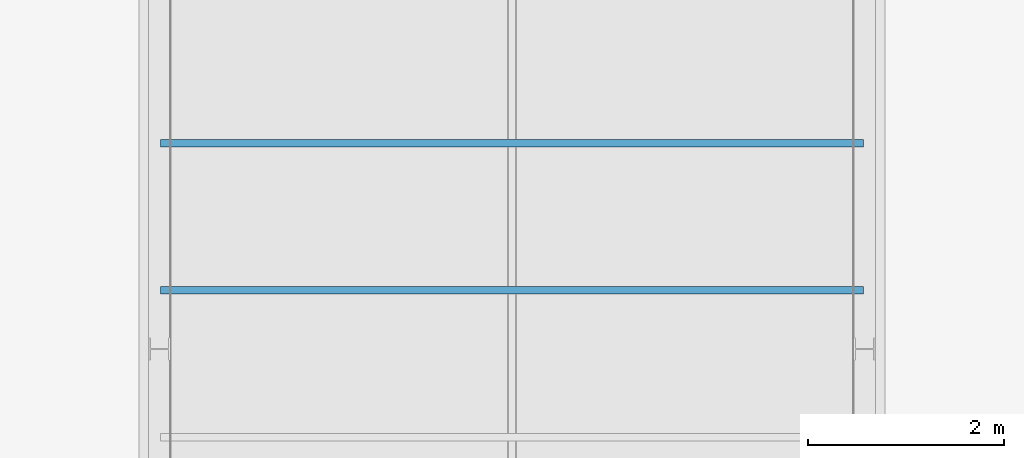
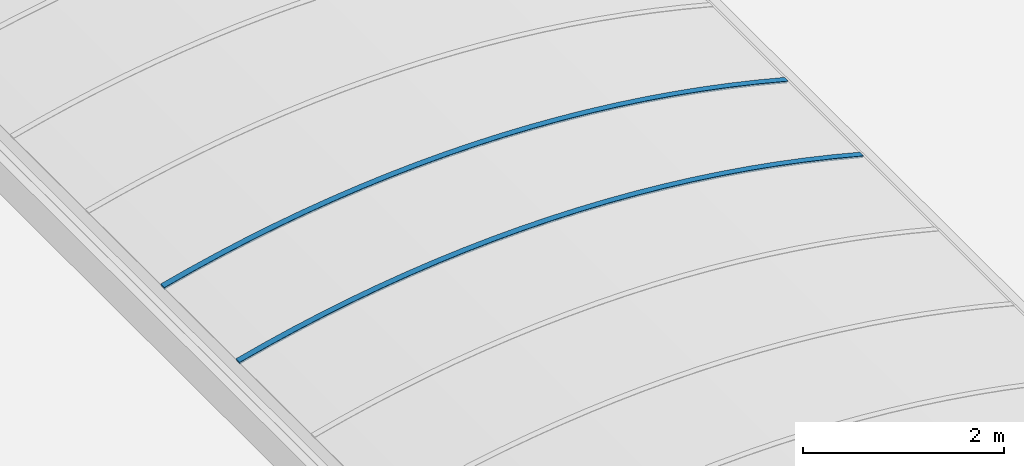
# One storey, part 40 of 81: 2 beams.
"""IFC2X3 building model written with IfcOpenShell, lengths in millimetres."""

from ifc_helpers import new_model, entity, si_unit, converted_unit, derived_unit, money_unit, direction, frame, origin_with_axes, place, context, subcontext, project, spatial, faceted_brep, material, material_list, type_object, element, save


model = new_model("IFC2X3")

# Units and contexts
model_context = context("Model", 3, precision=0.01, world=origin_with_axes(), true_north=direction((0.0, 1.0)))
body_context = subcontext(model_context, "Body", "Model", "MODEL_VIEW")
ifc_project = project(units=[si_unit("LENGTHUNIT", "METRE", prefix="MILLI"), si_unit("AREAUNIT", "SQUARE_METRE"), si_unit("VOLUMEUNIT", "CUBIC_METRE"), converted_unit("PLANEANGLEUNIT", "DEGREE", entity("IfcPlaneAngleMeasure", 0.0174532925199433), si_unit("PLANEANGLEUNIT", "RADIAN"), dimensions=[0, 0, 0, 0, 0, 0, 0]), money_unit("EUR"), converted_unit("TIMEUNIT", "Year", entity("IfcTimeMeasure", 31557600.0), si_unit("TIMEUNIT", "SECOND"), dimensions=[0, 0, 1, 0, 0, 0, 0]), si_unit("MASSUNIT", "GRAM", prefix="KILO"), si_unit("THERMODYNAMICTEMPERATUREUNIT", "DEGREE_CELSIUS"), si_unit("LUMINOUSINTENSITYUNIT", "LUMEN"), si_unit("ENERGYUNIT", "JOULE", prefix="MEGA"), derived_unit("THERMALCONDUCTANCEUNIT", [(si_unit("POWERUNIT", "WATT"), 1), (si_unit("LENGTHUNIT", "METRE"), -1), (si_unit("THERMODYNAMICTEMPERATUREUNIT", "KELVIN"), -1)]), derived_unit("SPECIFICHEATCAPACITYUNIT", [(si_unit("ENERGYUNIT", "JOULE"), 1), (si_unit("MASSUNIT", "GRAM", prefix="KILO"), -1), (si_unit("THERMODYNAMICTEMPERATUREUNIT", "KELVIN"), -1)]), derived_unit("MASSDENSITYUNIT", [(si_unit("MASSUNIT", "GRAM", prefix="KILO"), 1), (si_unit("VOLUMEUNIT", "CUBIC_METRE"), -1)])], contexts=[model_context])

# Site, building, storey
site_placement = place(None, origin_with_axes())
site = spatial("IfcSite", under=ifc_project, at=site_placement, Name="Site", CompositionType="ELEMENT")
building_placement = place(site_placement, origin_with_axes())
building = spatial("IfcBuilding", under=site, at=building_placement, Name="Naam gebouw", CompositionType="ELEMENT")
storey_placement = place(building_placement, frame((0.0, 0.0, 15320.0), z_axis=(0.0, 0.0, 1.0), x_axis=(1.0, 0.0, 0.0)))
storey = spatial("IfcBuildingStorey", under=building, at=storey_placement, Name="01 dak", CompositionType="ELEMENT", Elevation=15320.0)

# Beams
ifc_material = material(Name="Metaal - Aluminium AFW")
ifc_material_list = material_list([ifc_material, ifc_material])
beam_type = type_object("IfcBeamType", Name="lichtstraat polycarbonaat (constructie) 7420 x 670", PredefinedType="BEAM")
beam_1_placement = place(storey_placement, frame((46900.00000000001, 59362.50000000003, 559.9999999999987), z_axis=(0.0, 0.0, 1.0), x_axis=(1.0, 0.0, 0.0)))
element("IfcBeam", 1, at=beam_1_placement, inside=storey, type_object=beam_type, material=ifc_material_list, Name="Plafondafwerking 3", ObjectType="BEAM", context=body_context, shape_type="Brep", body=[
    faceted_brep([(-3532.999999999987, 0.0, 192.1385480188), (-3582.999999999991, 0.0, 179.000000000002), (-3582.999999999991, 75.00000000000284, 179.000000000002), (-3532.999999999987, 75.00000000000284, 192.1385480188), (-3264.746952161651, 0.0, 264.2761146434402), (-3584.237010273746, 0.0, 183.6724462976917), (-3527.999999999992, 0.0, 193.4415530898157), (-3213.322878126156, 0.0, 271.5053933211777), (-2896.922437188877, 0.0, 342.2614189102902), (-2578.968364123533, 0.0, 405.6716830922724), (-2259.631179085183, 0.0, 461.7021786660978), (-1939.082143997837, 0.0, 510.3228562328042), (-1617.493170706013, 0.0, 551.5076403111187), (-1295.036728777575, 0.0, 585.2344433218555), (-971.8857530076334, 0.0, 611.485177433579), (-648.2135506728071, 0.0, 630.2457642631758), (-324.1937085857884, 0.0, 641.5061424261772), (0.0, 0.0, 645.2602729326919), (324.1937085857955, 0.0, 641.5061424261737), (648.2135506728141, 0.0, 630.2457642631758), (971.8857530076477, 0.0, 611.4851774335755), (1295.036728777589, 0.0, 585.2344433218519), (1617.49317070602, 0.0, 551.5076403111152), (1939.082143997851, 0.0, 510.3228562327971), (2259.63117908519, 0.0, 461.7021786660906), (2578.968364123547, 0.0, 405.6716830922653), (2896.922437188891, 0.0, 342.2614189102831), (3213.322878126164, 0.0, 271.5053933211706), (3528.000000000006, 0.0, 193.4415530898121), (3528.000000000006, 0.0, 194.0000000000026), (3533.000000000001, 0.0, 194.0000000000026), (3533.000000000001, 0.0, 192.1385480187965), (3582.999999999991, 0.0, 179.000000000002), (3584.237010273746, 0.0, 183.6724462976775), (3264.746952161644, 0.0, 264.2761146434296), (2943.448443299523, 0.0, 337.3385317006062), (2620.519461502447, 0.0, 402.8192257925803), (2296.138887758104, 0.0, 460.6819250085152), (1970.486407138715, 0.0, 510.8945772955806), (1643.742409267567, 0.0, 553.4293682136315), (1316.087888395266, 0.0, 588.2627363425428), (987.7043431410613, 0.0, 615.3753863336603), (658.7736759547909, 0.0, 634.7522995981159), (329.4780923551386, 0.0, 646.3827426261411), (0.0, 0.0, 650.2602729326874), (-329.4780923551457, 0.0, 646.3827426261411), (-658.7736759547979, 0.0, 634.7522995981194), (-987.7043431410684, 0.0, 615.375386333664), (-1316.087888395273, 0.0, 588.2627363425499), (-1643.742409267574, 0.0, 553.4293682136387), (-1970.486407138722, 0.0, 510.8945772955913), (-2296.138887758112, 0.0, 460.6819250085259), (-2620.519461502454, 0.0, 402.8192257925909), (-2943.44844329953, 0.0, 337.3385317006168), (-3584.237010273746, 75.00000000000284, 183.6724462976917), (-3527.999999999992, 75.00000000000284, 193.4415530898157), (-3264.746952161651, 75.00000000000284, 264.2761146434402), (-2943.44844329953, 75.00000000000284, 337.3385317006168), (-2620.519461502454, 75.00000000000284, 402.8192257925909), (-2296.138887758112, 75.00000000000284, 460.6819250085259), (-1970.486407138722, 75.00000000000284, 510.8945772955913), (-1643.742409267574, 75.00000000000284, 553.4293682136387), (-1316.087888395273, 75.00000000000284, 588.2627363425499), (-987.7043431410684, 75.00000000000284, 615.375386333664), (-658.7736759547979, 75.00000000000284, 634.7522995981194), (-329.4780923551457, 75.00000000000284, 646.3827426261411), (0.0, 75.00000000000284, 650.2602729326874), (329.4780923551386, 75.00000000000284, 646.3827426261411), (658.7736759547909, 75.00000000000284, 634.7522995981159), (987.7043431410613, 75.00000000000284, 615.3753863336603), (1316.087888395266, 75.00000000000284, 588.2627363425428), (1643.742409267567, 75.00000000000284, 553.4293682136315), (1970.486407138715, 75.00000000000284, 510.8945772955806), (2296.138887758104, 75.00000000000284, 460.6819250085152), (2620.519461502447, 75.00000000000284, 402.8192257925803), (2943.448443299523, 75.00000000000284, 337.3385317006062), (3264.746952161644, 75.00000000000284, 264.2761146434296), (3584.237010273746, 75.00000000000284, 183.6724462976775), (3582.999999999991, 75.00000000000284, 179.000000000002), (3533.000000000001, 75.00000000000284, 192.1385480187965), (3533.000000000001, 75.00000000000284, 194.0000000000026), (3528.000000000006, 75.00000000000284, 194.0000000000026), (3528.000000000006, 75.00000000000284, 193.4415530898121), (3213.322878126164, 75.00000000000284, 271.5053933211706), (2896.922437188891, 75.00000000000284, 342.2614189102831), (2578.968364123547, 75.00000000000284, 405.6716830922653), (2259.63117908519, 75.00000000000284, 461.7021786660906), (1939.082143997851, 75.00000000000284, 510.3228562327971), (1617.49317070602, 75.00000000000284, 551.5076403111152), (1295.036728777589, 75.00000000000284, 585.2344433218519), (971.8857530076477, 75.00000000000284, 611.4851774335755), (648.2135506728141, 75.00000000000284, 630.2457642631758), (324.1937085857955, 75.00000000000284, 641.5061424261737), (0.0, 75.00000000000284, 645.2602729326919), (-324.1937085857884, 75.00000000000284, 641.5061424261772), (-648.2135506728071, 75.00000000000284, 630.2457642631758), (-971.8857530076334, 75.00000000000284, 611.485177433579), (-1295.036728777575, 75.00000000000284, 585.2344433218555), (-1617.493170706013, 75.00000000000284, 551.5076403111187), (-1939.082143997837, 75.00000000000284, 510.3228562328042), (-2259.631179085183, 75.00000000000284, 461.7021786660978), (-2578.968364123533, 75.00000000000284, 405.6716830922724), (-2896.922437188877, 75.00000000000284, 342.2614189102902), (-3213.322878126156, 75.00000000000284, 271.5053933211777)], [[[0, 1, 2, 3]], [[4, 5, 1, 0, 6, 7, 8, 9, 10, 11, 12, 13, 14, 15, 16, 17, 18, 19, 20, 21, 22, 23, 24, 25, 26, 27, 28, 29, 30, 31, 32, 33, 34, 35, 36, 37, 38, 39, 40, 41, 42, 43, 44, 45, 46, 47, 48, 49, 50, 51, 52, 53]], [[1, 5, 54, 2]], [[55, 3, 2, 54, 56, 57, 58, 59, 60, 61, 62, 63, 64, 65, 66, 67, 68, 69, 70, 71, 72, 73, 74, 75, 76, 77, 78, 79, 80, 81, 82, 83, 84, 85, 86, 87, 88, 89, 90, 91, 92, 93, 94, 95, 96, 97, 98, 99, 100, 101, 102, 103]], [[6, 0, 3, 55]], [[5, 4, 56, 54]], [[7, 6, 55, 103]], [[8, 7, 103, 102]], [[9, 8, 102, 101]], [[10, 9, 101, 100]], [[11, 10, 100, 99]], [[12, 11, 99, 98]], [[13, 12, 98, 97]], [[14, 13, 97, 96]], [[15, 14, 96, 95]], [[16, 15, 95, 94]], [[17, 16, 94, 93]], [[18, 17, 93, 92]], [[19, 18, 92, 91]], [[20, 19, 91, 90]], [[21, 20, 90, 89]], [[22, 21, 89, 88]], [[23, 22, 88, 87]], [[24, 23, 87, 86]], [[25, 24, 86, 85]], [[26, 25, 85, 84]], [[27, 26, 84, 83]], [[28, 27, 83, 82]], [[29, 28, 82, 81]], [[30, 29, 81, 80]], [[31, 30, 80, 79]], [[32, 31, 79, 78]], [[33, 32, 78, 77]], [[34, 33, 77, 76]], [[35, 34, 76, 75]], [[36, 35, 75, 74]], [[37, 36, 74, 73]], [[38, 37, 73, 72]], [[39, 38, 72, 71]], [[40, 39, 71, 70]], [[41, 40, 70, 69]], [[42, 41, 69, 68]], [[43, 42, 68, 67]], [[44, 43, 67, 66]], [[45, 44, 66, 65]], [[46, 45, 65, 64]], [[47, 46, 64, 63]], [[48, 47, 63, 62]], [[49, 48, 62, 61]], [[50, 49, 61, 60]], [[51, 50, 60, 59]], [[52, 51, 59, 58]], [[53, 52, 58, 57]], [[4, 53, 57, 56]]]),
    faceted_brep([(3269.271727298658, 75.00000000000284, 283.190243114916), (2947.542627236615, 75.00000000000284, 356.4574241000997), (2947.542627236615, 0.0, 356.4574241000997), (3269.271727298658, 0.0, 283.190243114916), (3589.18475202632, 75.00000000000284, 202.3611008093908), (3587.947861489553, 75.00000000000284, 197.6891067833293), (3528.000000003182, 75.00000000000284, 213.4415530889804), (3213.322878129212, 75.00000000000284, 291.505393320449), (2896.922437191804, 75.00000000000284, 362.2614189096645), (2578.968364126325, 75.00000000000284, 425.6716830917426), (2259.631179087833, 75.00000000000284, 481.7021786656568), (1939.082144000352, 75.00000000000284, 530.3228562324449), (1617.493170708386, 75.00000000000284, 571.5076403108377), (1295.036728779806, 75.00000000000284, 605.2344433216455), (971.8857530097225, 75.00000000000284, 631.4851774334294), (648.2135506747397, 75.00000000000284, 650.2457642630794), (324.1937085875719, 75.00000000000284, 661.5061424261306), (1.63424829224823e-09, 75.00000000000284, 665.2602729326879), (-324.1937085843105, 75.00000000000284, 661.5061424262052), (-648.2135506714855, 75.00000000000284, 650.2457642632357), (-971.8857530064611, 75.00000000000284, 631.4851774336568), (-1295.036728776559, 75.00000000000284, 605.2344433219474), (-1617.493170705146, 75.00000000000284, 571.5076403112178), (-1939.082143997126, 75.00000000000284, 530.3228562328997), (-2259.631179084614, 75.00000000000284, 481.7021786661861), (-2578.968364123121, 75.00000000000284, 425.6716830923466), (-2896.922437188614, 75.00000000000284, 362.2614189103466), (-3213.322878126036, 75.00000000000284, 291.5053933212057), (-3528.00000000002, 75.00000000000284, 213.4415530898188), (-3533.000000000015, 75.00000000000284, 212.1385480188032), (-3587.947861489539, 75.00000000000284, 197.6891067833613), (-3589.184752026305, 75.00000000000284, 202.3611008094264), (-3269.271727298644, 75.00000000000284, 283.1902431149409), (-2947.542627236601, 75.00000000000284, 356.4574241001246), (-2624.176171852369, 75.00000000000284, 422.1219439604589), (-2299.351990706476, 75.00000000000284, 480.1473261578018), (-1973.250523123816, 75.00000000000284, 530.5013376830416), (-1646.052917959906, 75.00000000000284, 573.156006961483), (-1317.940932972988, 75.00000000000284, 608.0876393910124), (-989.0968338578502, 75.00000000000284, 635.2768305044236), (-659.7032929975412, 75.00000000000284, 654.7084767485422), (-329.9432879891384, 75.00000000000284, 666.3717838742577), (0.0, 75.00000000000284, 670.2602729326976), (329.9432879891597, 75.00000000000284, 666.3717838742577), (659.7032929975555, 75.00000000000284, 654.7084767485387), (989.0968338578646, 75.00000000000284, 635.2768305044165), (1317.940932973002, 75.00000000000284, 608.0876393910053), (1646.052917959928, 75.00000000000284, 573.1560069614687), (1973.250523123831, 75.00000000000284, 530.5013376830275), (2299.351990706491, 75.00000000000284, 480.147326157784), (2624.176171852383, 75.00000000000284, 422.1219439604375), (2624.176171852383, 0.0, 422.1219439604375), (2299.351990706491, 0.0, 480.147326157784), (1973.250523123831, 0.0, 530.5013376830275), (1646.052917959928, 0.0, 573.1560069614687), (1317.940932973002, 0.0, 608.0876393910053), (989.0968338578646, 0.0, 635.2768305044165), (659.7032929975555, 0.0, 654.7084767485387), (329.9432879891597, 0.0, 666.3717838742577), (0.0, 0.0, 670.2602729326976), (-329.9432879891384, 0.0, 666.3717838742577), (-659.7032929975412, 0.0, 654.7084767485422), (-989.0968338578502, 0.0, 635.2768305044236), (-1317.940932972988, 0.0, 608.0876393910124), (-1646.052917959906, 0.0, 573.156006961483), (-1973.250523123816, 0.0, 530.5013376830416), (-2299.351990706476, 0.0, 480.1473261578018), (-2624.176171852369, 0.0, 422.1219439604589), (-2947.542627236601, 0.0, 356.4574241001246), (-3269.271727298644, 0.0, 283.1902431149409), (-3589.184752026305, 0.0, 202.3611008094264), (-3587.947861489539, 0.0, 197.6891067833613), (-3533.000000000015, 0.0, 212.1385480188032), (-3528.00000000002, 0.0, 213.4415530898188), (-3213.322878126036, 0.0, 291.5053933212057), (-2896.922437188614, 0.0, 362.2614189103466), (-2578.968364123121, 0.0, 425.6716830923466), (-2259.631179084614, 0.0, 481.7021786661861), (-1939.082143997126, 0.0, 530.3228562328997), (-1617.493170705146, 0.0, 571.5076403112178), (-1295.036728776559, 0.0, 605.2344433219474), (-971.8857530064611, 0.0, 631.4851774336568), (-648.2135506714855, 0.0, 650.2457642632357), (-324.1937085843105, 0.0, 661.5061424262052), (1.63424829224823e-09, 0.0, 665.2602729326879), (324.1937085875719, 0.0, 661.5061424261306), (648.2135506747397, 0.0, 650.2457642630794), (971.8857530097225, 0.0, 631.4851774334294), (1295.036728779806, 0.0, 605.2344433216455), (1617.493170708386, 0.0, 571.5076403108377), (1939.082144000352, 0.0, 530.3228562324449), (2259.631179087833, 0.0, 481.7021786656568), (2578.968364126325, 0.0, 425.6716830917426), (2896.922437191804, 0.0, 362.2614189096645), (3213.322878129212, 0.0, 291.505393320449), (3528.000000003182, 0.0, 213.4415530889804), (3587.947861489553, 0.0, 197.6891067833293), (3589.18475202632, 0.0, 202.3611008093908)], [[[0, 1, 2, 3]], [[0, 4, 5, 6, 7, 8, 9, 10, 11, 12, 13, 14, 15, 16, 17, 18, 19, 20, 21, 22, 23, 24, 25, 26, 27, 28, 29, 30, 31, 32, 33, 34, 35, 36, 37, 38, 39, 40, 41, 42, 43, 44, 45, 46, 47, 48, 49, 50, 1]], [[1, 50, 51, 2]], [[3, 2, 51, 52, 53, 54, 55, 56, 57, 58, 59, 60, 61, 62, 63, 64, 65, 66, 67, 68, 69, 70, 71, 72, 73, 74, 75, 76, 77, 78, 79, 80, 81, 82, 83, 84, 85, 86, 87, 88, 89, 90, 91, 92, 93, 94, 95, 96, 97]], [[4, 0, 3, 97]], [[5, 4, 97, 96]], [[6, 5, 96, 95]], [[7, 6, 95, 94]], [[8, 7, 94, 93]], [[9, 8, 93, 92]], [[10, 9, 92, 91]], [[11, 10, 91, 90]], [[12, 11, 90, 89]], [[13, 12, 89, 88]], [[14, 13, 88, 87]], [[15, 14, 87, 86]], [[16, 15, 86, 85]], [[17, 16, 85, 84]], [[18, 17, 84, 83]], [[19, 18, 83, 82]], [[20, 19, 82, 81]], [[21, 20, 81, 80]], [[22, 21, 80, 79]], [[23, 22, 79, 78]], [[24, 23, 78, 77]], [[25, 24, 77, 76]], [[26, 25, 76, 75]], [[27, 26, 75, 74]], [[28, 27, 74, 73]], [[29, 28, 73, 72]], [[30, 29, 72, 71]], [[31, 30, 71, 70]], [[32, 31, 70, 69]], [[33, 32, 69, 68]], [[34, 33, 68, 67]], [[35, 34, 67, 66]], [[36, 35, 66, 65]], [[37, 36, 65, 64]], [[38, 37, 64, 63]], [[39, 38, 63, 62]], [[40, 39, 62, 61]], [[41, 40, 61, 60]], [[42, 41, 60, 59]], [[43, 42, 59, 58]], [[44, 43, 58, 57]], [[45, 44, 57, 56]], [[46, 45, 56, 55]], [[47, 46, 55, 54]], [[48, 47, 54, 53]], [[49, 48, 53, 52]], [[50, 49, 52, 51]]]),
])
beam_2_placement = place(storey_placement, frame((46900.00000000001, 60862.50000000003, 559.9999999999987), z_axis=(0.0, 0.0, 1.0), x_axis=(1.0, 0.0, 0.0)))
element("IfcBeam", 2, at=beam_2_placement, inside=storey, type_object=beam_type, material=ifc_material_list, Name="Plafondafwerking 3", ObjectType="BEAM", context=body_context, shape_type="Brep", body=[
    faceted_brep([(-3532.999999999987, 0.0, 192.1385480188), (-3582.999999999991, 0.0, 179.000000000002), (-3582.999999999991, 75.00000000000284, 179.000000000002), (-3532.999999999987, 75.00000000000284, 192.1385480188), (-3264.746952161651, 0.0, 264.2761146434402), (-3584.237010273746, 0.0, 183.6724462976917), (-3527.999999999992, 0.0, 193.4415530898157), (-3213.322878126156, 0.0, 271.5053933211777), (-2896.922437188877, 0.0, 342.2614189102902), (-2578.968364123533, 0.0, 405.6716830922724), (-2259.631179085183, 0.0, 461.7021786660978), (-1939.082143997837, 0.0, 510.3228562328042), (-1617.493170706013, 0.0, 551.5076403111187), (-1295.036728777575, 0.0, 585.2344433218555), (-971.8857530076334, 0.0, 611.485177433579), (-648.2135506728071, 0.0, 630.2457642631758), (-324.1937085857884, 0.0, 641.5061424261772), (0.0, 0.0, 645.2602729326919), (324.1937085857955, 0.0, 641.5061424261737), (648.2135506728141, 0.0, 630.2457642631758), (971.8857530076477, 0.0, 611.4851774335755), (1295.036728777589, 0.0, 585.2344433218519), (1617.49317070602, 0.0, 551.5076403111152), (1939.082143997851, 0.0, 510.3228562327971), (2259.63117908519, 0.0, 461.7021786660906), (2578.968364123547, 0.0, 405.6716830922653), (2896.922437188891, 0.0, 342.2614189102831), (3213.322878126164, 0.0, 271.5053933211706), (3528.000000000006, 0.0, 193.4415530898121), (3528.000000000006, 0.0, 194.0000000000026), (3533.000000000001, 0.0, 194.0000000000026), (3533.000000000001, 0.0, 192.1385480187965), (3582.999999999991, 0.0, 179.000000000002), (3584.237010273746, 0.0, 183.6724462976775), (3264.746952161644, 0.0, 264.2761146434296), (2943.448443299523, 0.0, 337.3385317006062), (2620.519461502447, 0.0, 402.8192257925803), (2296.138887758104, 0.0, 460.6819250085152), (1970.486407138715, 0.0, 510.8945772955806), (1643.742409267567, 0.0, 553.4293682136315), (1316.087888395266, 0.0, 588.2627363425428), (987.7043431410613, 0.0, 615.3753863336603), (658.7736759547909, 0.0, 634.7522995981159), (329.4780923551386, 0.0, 646.3827426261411), (0.0, 0.0, 650.2602729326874), (-329.4780923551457, 0.0, 646.3827426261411), (-658.7736759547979, 0.0, 634.7522995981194), (-987.7043431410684, 0.0, 615.375386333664), (-1316.087888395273, 0.0, 588.2627363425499), (-1643.742409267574, 0.0, 553.4293682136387), (-1970.486407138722, 0.0, 510.8945772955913), (-2296.138887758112, 0.0, 460.6819250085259), (-2620.519461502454, 0.0, 402.8192257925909), (-2943.44844329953, 0.0, 337.3385317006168), (-3584.237010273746, 75.00000000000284, 183.6724462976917), (-3527.999999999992, 75.00000000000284, 193.4415530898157), (-3264.746952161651, 75.00000000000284, 264.2761146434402), (-2943.44844329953, 75.00000000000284, 337.3385317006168), (-2620.519461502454, 75.00000000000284, 402.8192257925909), (-2296.138887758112, 75.00000000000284, 460.6819250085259), (-1970.486407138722, 75.00000000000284, 510.8945772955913), (-1643.742409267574, 75.00000000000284, 553.4293682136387), (-1316.087888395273, 75.00000000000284, 588.2627363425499), (-987.7043431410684, 75.00000000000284, 615.375386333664), (-658.7736759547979, 75.00000000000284, 634.7522995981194), (-329.4780923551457, 75.00000000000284, 646.3827426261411), (0.0, 75.00000000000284, 650.2602729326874), (329.4780923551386, 75.00000000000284, 646.3827426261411), (658.7736759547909, 75.00000000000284, 634.7522995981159), (987.7043431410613, 75.00000000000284, 615.3753863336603), (1316.087888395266, 75.00000000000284, 588.2627363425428), (1643.742409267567, 75.00000000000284, 553.4293682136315), (1970.486407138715, 75.00000000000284, 510.8945772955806), (2296.138887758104, 75.00000000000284, 460.6819250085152), (2620.519461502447, 75.00000000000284, 402.8192257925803), (2943.448443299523, 75.00000000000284, 337.3385317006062), (3264.746952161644, 75.00000000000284, 264.2761146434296), (3584.237010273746, 75.00000000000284, 183.6724462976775), (3582.999999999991, 75.00000000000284, 179.000000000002), (3533.000000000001, 75.00000000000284, 192.1385480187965), (3533.000000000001, 75.00000000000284, 194.0000000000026), (3528.000000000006, 75.00000000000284, 194.0000000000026), (3528.000000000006, 75.00000000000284, 193.4415530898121), (3213.322878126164, 75.00000000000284, 271.5053933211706), (2896.922437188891, 75.00000000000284, 342.2614189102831), (2578.968364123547, 75.00000000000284, 405.6716830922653), (2259.63117908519, 75.00000000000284, 461.7021786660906), (1939.082143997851, 75.00000000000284, 510.3228562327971), (1617.49317070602, 75.00000000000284, 551.5076403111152), (1295.036728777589, 75.00000000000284, 585.2344433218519), (971.8857530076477, 75.00000000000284, 611.4851774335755), (648.2135506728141, 75.00000000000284, 630.2457642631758), (324.1937085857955, 75.00000000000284, 641.5061424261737), (0.0, 75.00000000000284, 645.2602729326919), (-324.1937085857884, 75.00000000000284, 641.5061424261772), (-648.2135506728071, 75.00000000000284, 630.2457642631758), (-971.8857530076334, 75.00000000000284, 611.485177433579), (-1295.036728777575, 75.00000000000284, 585.2344433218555), (-1617.493170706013, 75.00000000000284, 551.5076403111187), (-1939.082143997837, 75.00000000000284, 510.3228562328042), (-2259.631179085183, 75.00000000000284, 461.7021786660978), (-2578.968364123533, 75.00000000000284, 405.6716830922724), (-2896.922437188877, 75.00000000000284, 342.2614189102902), (-3213.322878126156, 75.00000000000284, 271.5053933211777)], [[[0, 1, 2, 3]], [[4, 5, 1, 0, 6, 7, 8, 9, 10, 11, 12, 13, 14, 15, 16, 17, 18, 19, 20, 21, 22, 23, 24, 25, 26, 27, 28, 29, 30, 31, 32, 33, 34, 35, 36, 37, 38, 39, 40, 41, 42, 43, 44, 45, 46, 47, 48, 49, 50, 51, 52, 53]], [[1, 5, 54, 2]], [[55, 3, 2, 54, 56, 57, 58, 59, 60, 61, 62, 63, 64, 65, 66, 67, 68, 69, 70, 71, 72, 73, 74, 75, 76, 77, 78, 79, 80, 81, 82, 83, 84, 85, 86, 87, 88, 89, 90, 91, 92, 93, 94, 95, 96, 97, 98, 99, 100, 101, 102, 103]], [[6, 0, 3, 55]], [[5, 4, 56, 54]], [[7, 6, 55, 103]], [[8, 7, 103, 102]], [[9, 8, 102, 101]], [[10, 9, 101, 100]], [[11, 10, 100, 99]], [[12, 11, 99, 98]], [[13, 12, 98, 97]], [[14, 13, 97, 96]], [[15, 14, 96, 95]], [[16, 15, 95, 94]], [[17, 16, 94, 93]], [[18, 17, 93, 92]], [[19, 18, 92, 91]], [[20, 19, 91, 90]], [[21, 20, 90, 89]], [[22, 21, 89, 88]], [[23, 22, 88, 87]], [[24, 23, 87, 86]], [[25, 24, 86, 85]], [[26, 25, 85, 84]], [[27, 26, 84, 83]], [[28, 27, 83, 82]], [[29, 28, 82, 81]], [[30, 29, 81, 80]], [[31, 30, 80, 79]], [[32, 31, 79, 78]], [[33, 32, 78, 77]], [[34, 33, 77, 76]], [[35, 34, 76, 75]], [[36, 35, 75, 74]], [[37, 36, 74, 73]], [[38, 37, 73, 72]], [[39, 38, 72, 71]], [[40, 39, 71, 70]], [[41, 40, 70, 69]], [[42, 41, 69, 68]], [[43, 42, 68, 67]], [[44, 43, 67, 66]], [[45, 44, 66, 65]], [[46, 45, 65, 64]], [[47, 46, 64, 63]], [[48, 47, 63, 62]], [[49, 48, 62, 61]], [[50, 49, 61, 60]], [[51, 50, 60, 59]], [[52, 51, 59, 58]], [[53, 52, 58, 57]], [[4, 53, 57, 56]]]),
    faceted_brep([(3269.271727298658, 75.00000000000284, 283.190243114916), (2947.542627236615, 75.00000000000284, 356.4574241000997), (2947.542627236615, 0.0, 356.4574241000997), (3269.271727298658, 0.0, 283.190243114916), (3589.18475202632, 75.00000000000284, 202.3611008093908), (3587.947861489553, 75.00000000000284, 197.6891067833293), (3528.000000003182, 75.00000000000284, 213.4415530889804), (3213.322878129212, 75.00000000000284, 291.505393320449), (2896.922437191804, 75.00000000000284, 362.2614189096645), (2578.968364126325, 75.00000000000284, 425.6716830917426), (2259.631179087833, 75.00000000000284, 481.7021786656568), (1939.082144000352, 75.00000000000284, 530.3228562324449), (1617.493170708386, 75.00000000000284, 571.5076403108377), (1295.036728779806, 75.00000000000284, 605.2344433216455), (971.8857530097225, 75.00000000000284, 631.4851774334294), (648.2135506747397, 75.00000000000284, 650.2457642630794), (324.1937085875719, 75.00000000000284, 661.5061424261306), (1.63424829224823e-09, 75.00000000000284, 665.2602729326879), (-324.1937085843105, 75.00000000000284, 661.5061424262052), (-648.2135506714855, 75.00000000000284, 650.2457642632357), (-971.8857530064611, 75.00000000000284, 631.4851774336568), (-1295.036728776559, 75.00000000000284, 605.2344433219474), (-1617.493170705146, 75.00000000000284, 571.5076403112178), (-1939.082143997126, 75.00000000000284, 530.3228562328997), (-2259.631179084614, 75.00000000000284, 481.7021786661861), (-2578.968364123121, 75.00000000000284, 425.6716830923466), (-2896.922437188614, 75.00000000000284, 362.2614189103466), (-3213.322878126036, 75.00000000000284, 291.5053933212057), (-3528.00000000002, 75.00000000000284, 213.4415530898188), (-3533.000000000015, 75.00000000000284, 212.1385480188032), (-3587.947861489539, 75.00000000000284, 197.6891067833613), (-3589.184752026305, 75.00000000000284, 202.3611008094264), (-3269.271727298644, 75.00000000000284, 283.1902431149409), (-2947.542627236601, 75.00000000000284, 356.4574241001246), (-2624.176171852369, 75.00000000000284, 422.1219439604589), (-2299.351990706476, 75.00000000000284, 480.1473261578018), (-1973.250523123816, 75.00000000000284, 530.5013376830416), (-1646.052917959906, 75.00000000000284, 573.156006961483), (-1317.940932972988, 75.00000000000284, 608.0876393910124), (-989.0968338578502, 75.00000000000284, 635.2768305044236), (-659.7032929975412, 75.00000000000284, 654.7084767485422), (-329.9432879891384, 75.00000000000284, 666.3717838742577), (0.0, 75.00000000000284, 670.2602729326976), (329.9432879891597, 75.00000000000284, 666.3717838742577), (659.7032929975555, 75.00000000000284, 654.7084767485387), (989.0968338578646, 75.00000000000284, 635.2768305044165), (1317.940932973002, 75.00000000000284, 608.0876393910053), (1646.052917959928, 75.00000000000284, 573.1560069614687), (1973.250523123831, 75.00000000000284, 530.5013376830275), (2299.351990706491, 75.00000000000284, 480.147326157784), (2624.176171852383, 75.00000000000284, 422.1219439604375), (2624.176171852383, 0.0, 422.1219439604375), (2299.351990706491, 0.0, 480.147326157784), (1973.250523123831, 0.0, 530.5013376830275), (1646.052917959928, 0.0, 573.1560069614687), (1317.940932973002, 0.0, 608.0876393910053), (989.0968338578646, 0.0, 635.2768305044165), (659.7032929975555, 0.0, 654.7084767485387), (329.9432879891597, 0.0, 666.3717838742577), (0.0, 0.0, 670.2602729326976), (-329.9432879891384, 0.0, 666.3717838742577), (-659.7032929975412, 0.0, 654.7084767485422), (-989.0968338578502, 0.0, 635.2768305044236), (-1317.940932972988, 0.0, 608.0876393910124), (-1646.052917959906, 0.0, 573.156006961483), (-1973.250523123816, 0.0, 530.5013376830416), (-2299.351990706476, 0.0, 480.1473261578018), (-2624.176171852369, 0.0, 422.1219439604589), (-2947.542627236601, 0.0, 356.4574241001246), (-3269.271727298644, 0.0, 283.1902431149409), (-3589.184752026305, 0.0, 202.3611008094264), (-3587.947861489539, 0.0, 197.6891067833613), (-3533.000000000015, 0.0, 212.1385480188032), (-3528.00000000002, 0.0, 213.4415530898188), (-3213.322878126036, 0.0, 291.5053933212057), (-2896.922437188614, 0.0, 362.2614189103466), (-2578.968364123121, 0.0, 425.6716830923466), (-2259.631179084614, 0.0, 481.7021786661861), (-1939.082143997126, 0.0, 530.3228562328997), (-1617.493170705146, 0.0, 571.5076403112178), (-1295.036728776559, 0.0, 605.2344433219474), (-971.8857530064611, 0.0, 631.4851774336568), (-648.2135506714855, 0.0, 650.2457642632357), (-324.1937085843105, 0.0, 661.5061424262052), (1.63424829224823e-09, 0.0, 665.2602729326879), (324.1937085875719, 0.0, 661.5061424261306), (648.2135506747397, 0.0, 650.2457642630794), (971.8857530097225, 0.0, 631.4851774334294), (1295.036728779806, 0.0, 605.2344433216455), (1617.493170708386, 0.0, 571.5076403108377), (1939.082144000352, 0.0, 530.3228562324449), (2259.631179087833, 0.0, 481.7021786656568), (2578.968364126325, 0.0, 425.6716830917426), (2896.922437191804, 0.0, 362.2614189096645), (3213.322878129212, 0.0, 291.505393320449), (3528.000000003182, 0.0, 213.4415530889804), (3587.947861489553, 0.0, 197.6891067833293), (3589.18475202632, 0.0, 202.3611008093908)], [[[0, 1, 2, 3]], [[0, 4, 5, 6, 7, 8, 9, 10, 11, 12, 13, 14, 15, 16, 17, 18, 19, 20, 21, 22, 23, 24, 25, 26, 27, 28, 29, 30, 31, 32, 33, 34, 35, 36, 37, 38, 39, 40, 41, 42, 43, 44, 45, 46, 47, 48, 49, 50, 1]], [[1, 50, 51, 2]], [[3, 2, 51, 52, 53, 54, 55, 56, 57, 58, 59, 60, 61, 62, 63, 64, 65, 66, 67, 68, 69, 70, 71, 72, 73, 74, 75, 76, 77, 78, 79, 80, 81, 82, 83, 84, 85, 86, 87, 88, 89, 90, 91, 92, 93, 94, 95, 96, 97]], [[4, 0, 3, 97]], [[5, 4, 97, 96]], [[6, 5, 96, 95]], [[7, 6, 95, 94]], [[8, 7, 94, 93]], [[9, 8, 93, 92]], [[10, 9, 92, 91]], [[11, 10, 91, 90]], [[12, 11, 90, 89]], [[13, 12, 89, 88]], [[14, 13, 88, 87]], [[15, 14, 87, 86]], [[16, 15, 86, 85]], [[17, 16, 85, 84]], [[18, 17, 84, 83]], [[19, 18, 83, 82]], [[20, 19, 82, 81]], [[21, 20, 81, 80]], [[22, 21, 80, 79]], [[23, 22, 79, 78]], [[24, 23, 78, 77]], [[25, 24, 77, 76]], [[26, 25, 76, 75]], [[27, 26, 75, 74]], [[28, 27, 74, 73]], [[29, 28, 73, 72]], [[30, 29, 72, 71]], [[31, 30, 71, 70]], [[32, 31, 70, 69]], [[33, 32, 69, 68]], [[34, 33, 68, 67]], [[35, 34, 67, 66]], [[36, 35, 66, 65]], [[37, 36, 65, 64]], [[38, 37, 64, 63]], [[39, 38, 63, 62]], [[40, 39, 62, 61]], [[41, 40, 61, 60]], [[42, 41, 60, 59]], [[43, 42, 59, 58]], [[44, 43, 58, 57]], [[45, 44, 57, 56]], [[46, 45, 56, 55]], [[47, 46, 55, 54]], [[48, 47, 54, 53]], [[49, 48, 53, 52]], [[50, 49, 52, 51]]]),
])

save(model, "model.ifc")
